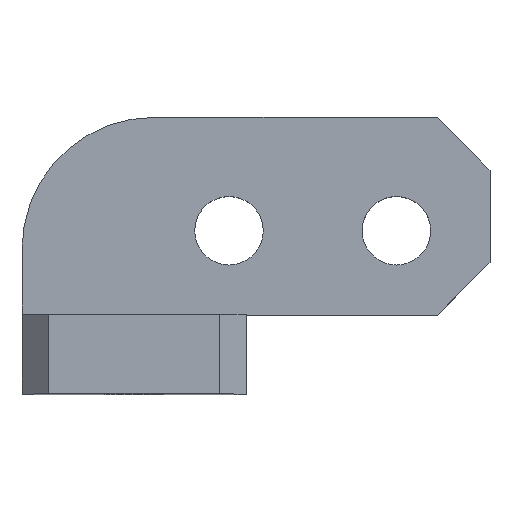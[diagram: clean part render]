
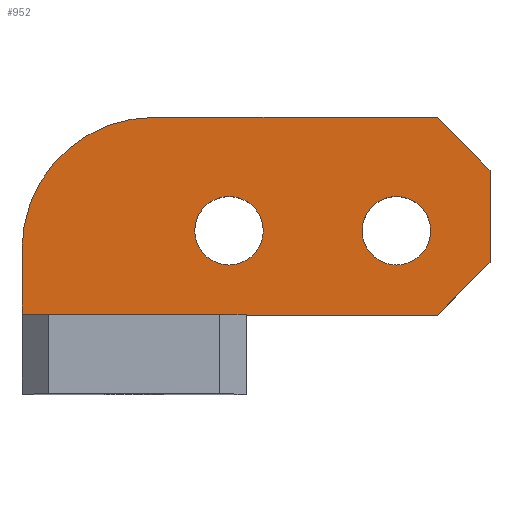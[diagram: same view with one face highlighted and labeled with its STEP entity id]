
A CAD part, top view. The second image highlights one B-rep face of the part: STEP entity #952.
In plain terms, the highlighted planar face has unit normal (0, 0, 1).
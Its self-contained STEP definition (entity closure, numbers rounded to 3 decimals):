
#28 = LINE ( 'NONE', #62, #141 ) ;
#32 = VERTEX_POINT ( 'NONE', #347 ) ;
#46 = EDGE_CURVE ( 'NONE', #253, #1056, #139, .T. ) ;
#55 = AXIS2_PLACEMENT_3D ( 'NONE', #991, #552, #640 ) ;
#62 = CARTESIAN_POINT ( 'NONE',  ( -8.5, 21., 3. ) ) ;
#70 = CIRCLE ( 'NONE', #823, 2.6 ) ;
#86 = CARTESIAN_POINT ( 'NONE',  ( 19.9, 12.4, 3. ) ) ;
#91 = VERTEX_POINT ( 'NONE', #817 ) ;
#96 = VERTEX_POINT ( 'NONE', #721 ) ;
#97 = FACE_BOUND ( 'NONE', #142, .T. ) ;
#100 = EDGE_LOOP ( 'NONE', ( #783, #842 ) ) ;
#103 = EDGE_CURVE ( 'NONE', #91, #912, #441, .T. ) ;
#128 = EDGE_CURVE ( 'NONE', #96, #636, #462, .T. ) ;
#139 = CIRCLE ( 'NONE', #377, 10. ) ;
#141 = VECTOR ( 'NONE', #205, 1000. ) ;
#142 = EDGE_LOOP ( 'NONE', ( #583, #246 ) ) ;
#143 = AXIS2_PLACEMENT_3D ( 'NONE', #86, #549, #169 ) ;
#148 = DIRECTION ( 'NONE',  ( 1., 0., 0. ) ) ;
#169 = DIRECTION ( 'NONE',  ( 1., 0., 0. ) ) ;
#184 = CARTESIAN_POINT ( 'NONE',  ( 1.5, 21., 3. ) ) ;
#186 = EDGE_LOOP ( 'NONE', ( #900, #753, #262, #985, #317, #898, #768 ) ) ;
#198 = FACE_BOUND ( 'NONE', #100, .T. ) ;
#205 = DIRECTION ( 'NONE',  ( 0., -1., 0. ) ) ;
#206 = CARTESIAN_POINT ( 'NONE',  ( 27., 10., 3. ) ) ;
#208 = VERTEX_POINT ( 'NONE', #940 ) ;
#214 = DIRECTION ( 'NONE',  ( 0., -1., 0. ) ) ;
#223 = LINE ( 'NONE', #631, #548 ) ;
#226 = PLANE ( 'NONE',  #992 ) ;
#234 = VECTOR ( 'NONE', #681, 1000. ) ;
#244 = DIRECTION ( 'NONE',  ( 0., 0., 1. ) ) ;
#246 = ORIENTED_EDGE ( 'NONE', *, *, #103, .F. ) ;
#253 = VERTEX_POINT ( 'NONE', #184 ) ;
#262 = ORIENTED_EDGE ( 'NONE', *, *, #1013, .F. ) ;
#295 = DIRECTION ( 'NONE',  ( 0.707, 0.707, 0. ) ) ;
#317 = ORIENTED_EDGE ( 'NONE', *, *, #362, .F. ) ;
#331 = CARTESIAN_POINT ( 'NONE',  ( 23., 6., 3. ) ) ;
#347 = CARTESIAN_POINT ( 'NONE',  ( -8.5, 6., 3. ) ) ;
#349 = DIRECTION ( 'NONE',  ( 1., 0., 0. ) ) ;
#352 = CARTESIAN_POINT ( 'NONE',  ( 27., 17., 3. ) ) ;
#357 = LINE ( 'NONE', #697, #1026 ) ;
#361 = CARTESIAN_POINT ( 'NONE',  ( 27., 10., 3. ) ) ;
#362 = EDGE_CURVE ( 'NONE', #253, #208, #444, .T. ) ;
#368 = DIRECTION ( 'NONE',  ( -0.707, 0.707, 0. ) ) ;
#377 = AXIS2_PLACEMENT_3D ( 'NONE', #813, #974, #469 ) ;
#380 = VERTEX_POINT ( 'NONE', #352 ) ;
#385 = DIRECTION ( 'NONE',  ( 0., 0., -1. ) ) ;
#390 = CIRCLE ( 'NONE', #654, 2.6 ) ;
#422 = CARTESIAN_POINT ( 'NONE',  ( -8.5, 11., 3. ) ) ;
#441 = CIRCLE ( 'NONE', #143, 2.6 ) ;
#444 = LINE ( 'NONE', #512, #834 ) ;
#449 = EDGE_CURVE ( 'NONE', #32, #496, #652, .T. ) ;
#462 = CIRCLE ( 'NONE', #55, 2.6 ) ;
#469 = DIRECTION ( 'NONE',  ( -1., 0., 0. ) ) ;
#496 = VERTEX_POINT ( 'NONE', #331 ) ;
#512 = CARTESIAN_POINT ( 'NONE',  ( -8.5, 21., 3. ) ) ;
#513 = CARTESIAN_POINT ( 'NONE',  ( 7.2, 12.4, 3. ) ) ;
#514 = EDGE_CURVE ( 'NONE', #380, #208, #223, .T. ) ;
#518 = VERTEX_POINT ( 'NONE', #361 ) ;
#548 = VECTOR ( 'NONE', #368, 1000. ) ;
#549 = DIRECTION ( 'NONE',  ( 0., 0., 1. ) ) ;
#550 = CARTESIAN_POINT ( 'NONE',  ( 19.9, 12.4, 3. ) ) ;
#552 = DIRECTION ( 'NONE',  ( 0., 0., 1. ) ) ;
#583 = ORIENTED_EDGE ( 'NONE', *, *, #819, .F. ) ;
#585 = CARTESIAN_POINT ( 'NONE',  ( -8.5, 6., 3. ) ) ;
#631 = CARTESIAN_POINT ( 'NONE',  ( 23., 21., 3. ) ) ;
#636 = VERTEX_POINT ( 'NONE', #969 ) ;
#640 = DIRECTION ( 'NONE',  ( 1., 0., 0. ) ) ;
#652 = LINE ( 'NONE', #585, #234 ) ;
#654 = AXIS2_PLACEMENT_3D ( 'NONE', #513, #244, #148 ) ;
#669 = EDGE_CURVE ( 'NONE', #636, #96, #390, .T. ) ;
#681 = DIRECTION ( 'NONE',  ( 1., 0., 0. ) ) ;
#697 = CARTESIAN_POINT ( 'NONE',  ( 27., 21., 3. ) ) ;
#721 = CARTESIAN_POINT ( 'NONE',  ( 4.6, 12.4, 3. ) ) ;
#753 = ORIENTED_EDGE ( 'NONE', *, *, #1031, .T. ) ;
#758 = VECTOR ( 'NONE', #295, 1000. ) ;
#768 = ORIENTED_EDGE ( 'NONE', *, *, #943, .T. ) ;
#783 = ORIENTED_EDGE ( 'NONE', *, *, #669, .F. ) ;
#802 = FACE_OUTER_BOUND ( 'NONE', #186, .T. ) ;
#813 = CARTESIAN_POINT ( 'NONE',  ( 1.5, 11., 3. ) ) ;
#817 = CARTESIAN_POINT ( 'NONE',  ( 17.3, 12.4, 3. ) ) ;
#819 = EDGE_CURVE ( 'NONE', #912, #91, #70, .T. ) ;
#823 = AXIS2_PLACEMENT_3D ( 'NONE', #550, #945, #942 ) ;
#834 = VECTOR ( 'NONE', #349, 1000. ) ;
#842 = ORIENTED_EDGE ( 'NONE', *, *, #128, .F. ) ;
#867 = LINE ( 'NONE', #206, #758 ) ;
#898 = ORIENTED_EDGE ( 'NONE', *, *, #46, .T. ) ;
#900 = ORIENTED_EDGE ( 'NONE', *, *, #449, .T. ) ;
#912 = VERTEX_POINT ( 'NONE', #934 ) ;
#934 = CARTESIAN_POINT ( 'NONE',  ( 22.5, 12.4, 3. ) ) ;
#940 = CARTESIAN_POINT ( 'NONE',  ( 23., 21., 3. ) ) ;
#942 = DIRECTION ( 'NONE',  ( 1., 0., 0. ) ) ;
#943 = EDGE_CURVE ( 'NONE', #1056, #32, #28, .T. ) ;
#945 = DIRECTION ( 'NONE',  ( 0., 0., 1. ) ) ;
#952 = ADVANCED_FACE ( 'NONE', ( #97, #198, #802 ), #226, .F. ) ;
#968 = CARTESIAN_POINT ( 'NONE',  ( -8.5, 21., 3. ) ) ;
#969 = CARTESIAN_POINT ( 'NONE',  ( 9.8, 12.4, 3. ) ) ;
#974 = DIRECTION ( 'NONE',  ( 0., 0., 1. ) ) ;
#985 = ORIENTED_EDGE ( 'NONE', *, *, #514, .T. ) ;
#991 = CARTESIAN_POINT ( 'NONE',  ( 7.2, 12.4, 3. ) ) ;
#992 = AXIS2_PLACEMENT_3D ( 'NONE', #968, #385, #1050 ) ;
#1013 = EDGE_CURVE ( 'NONE', #380, #518, #357, .T. ) ;
#1026 = VECTOR ( 'NONE', #214, 1000. ) ;
#1031 = EDGE_CURVE ( 'NONE', #496, #518, #867, .T. ) ;
#1050 = DIRECTION ( 'NONE',  ( -1., 0., 0. ) ) ;
#1056 = VERTEX_POINT ( 'NONE', #422 ) ;
